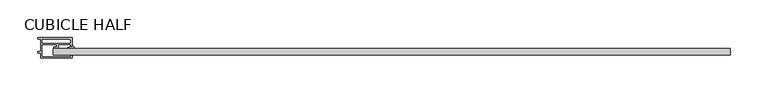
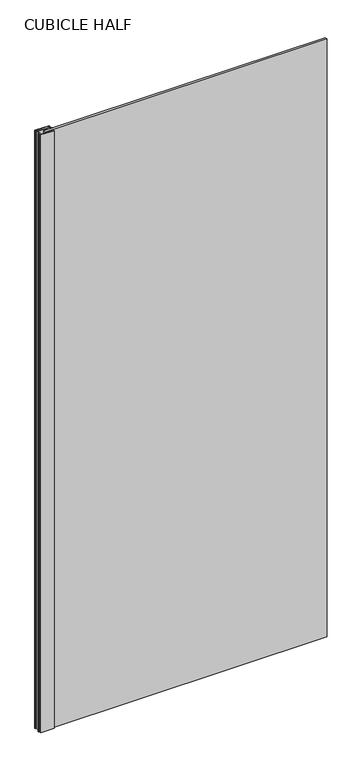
"""IFC4 building model written with IfcOpenShell, lengths in millimetres: flow terminal geometry, Sanitary_Showers_Rare_OPEN-F00 : CUBICLE HALF."""

from ifc_helpers import new_model, si_unit, origin, origin_with_axes, place, context, project, spatial, polyline, outline, extrude, source, transform, mapped, element, save


def cubicle_half_16156615(model_context):
    return source(origin(), model_context, "Body", "SweptSolid", [
        extrude(outline(polyline([(19.0808586, -21.5235549), (19.0808586, -13.5141238), (911.4185457, -13.5141238), (911.4185457, -21.5235549), (19.0808586, -21.5235549)])), origin_with_axes(), (0.0, 0.0, 1.0), 2000.0),
        extrude(outline(polyline([(44.0000063, -21.9500032), (44.0000063, -25.7000037), (2.5000005, -25.7000037), (2.5000005, -19.0000028), (-1.0, -19.0000028), (-1.0, -17.5000026), (2.5000005, -17.5000026), (2.5000005, -0.5000002), (-1.0, -0.5000002), (-1.0, 1.0), (44.0000063, 1.0), (44.0000063, -9.9000015), (42.2500061, -9.9000015), (42.2500061, -7.9000012), (25.5000037, -7.9000012), (25.5000037, -12.7800019), (19.7500029, -12.7800019), (19.7500029, -11.2800017), (24.0000035, -11.2800017), (24.0000035, -7.9000012), (4.5000008, -7.9000012), (4.5000008, -6.400001), (42.5000061, -6.400001), (42.5000061, -1.5879759), (41.0000059, -1.5879759), (41.0000059, -0.5000002), (4.0000007, -0.5000002), (4.0000007, -24.2000035), (42.5000061, -24.2000035), (42.5000061, -21.9500032), (44.0000063, -21.9500032)])), origin_with_axes(), (0.0, 0.0, 1.0), 2000.00028),
        extrude(outline(polyline([(38.1711226, -13.5141259), (38.1711226, -12.2577585), (41.496184, -10.3072982), (42.5500061, -10.3072982), (42.5500061, -11.2141255), (44.2000063, -11.2141255), (44.2000063, -9.3591315), (46.0462267, -10.3755478), (47.1486879, -11.9268391), (47.5081888, -13.5141259), (38.1711226, -13.5141259)])), origin_with_axes(), (0.0, 0.0, 1.0), 2000.00028),
    ])


if __name__ == "__main__":
    model = new_model("IFC4")
    model_context = context("Model", 3, world=origin())
    ifc_project = project(units=[si_unit("LENGTHUNIT", "METRE", prefix="MILLI")], contexts=[model_context])
    site = spatial("IfcSite", under=ifc_project)
    building = spatial("IfcBuilding", under=site)
    placement = place(None, origin())
    cubicle_half_shape = cubicle_half_16156615(model_context)
    element("IfcFlowTerminal", 1, ObjectType="Sanitary_Showers_Rare_OPEN-F00 : CUBICLE HALF", at=placement, inside=building, context=model_context, shape_type="MappedRepresentation", body=[
        mapped(cubicle_half_shape, transform((0.0, 0.0, 0.0), x_axis=(1.0, 0.0, 0.0), y_axis=(0.0, 1.0, 0.0), z_axis=(0.0, 0.0, 1.0))),
    ])
    save(model, "model.ifc")
